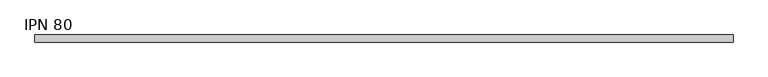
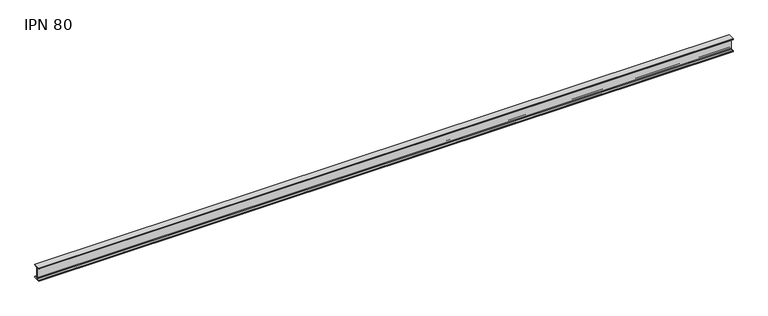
"""IFC4 building model written with IfcOpenShell, lengths in millimetres: beam geometry, IPN - Secciones en I con alas cónicas : IPN 80."""

from ifc_helpers import new_model, si_unit, point, frame, frame_2d, origin, place, context, project, spatial, polyline, circle_curve, trimmed, segment, composite_curve, outline, extrude, source, transform, mapped, element, save


def ipn_80_ad12ebcf(model_context):
    return source(origin(), model_context, "Body", "SweptSolid", [
        extrude(outline(composite_curve([segment(polyline([(-21.0, 40.0), (21.0, 40.0), (21.0, 37.5704306)]), True, "CONTINUOUS"), segment(trimmed(circle_curve(frame_2d((18.7, 37.5704306)), 2.3), [point((21.0, 37.5704306))], [point((19.01889, 35.2926446))], False, "CARTESIAN"), True, "CONTINUOUS"), segment(polyline([(19.01889, 35.2926446), (5.3092734, 33.3732983)]), True, "CONTINUOUS"), segment(trimmed(circle_curve(frame_2d((5.85, 29.5109655)), 3.9), [point((5.3092734, 33.3732983))], [point((1.95, 29.5109655))], True, "CARTESIAN"), True, "CONTINUOUS"), segment(polyline([(1.95, 29.5109655), (1.95, -29.5109655)]), True, "CONTINUOUS"), segment(trimmed(circle_curve(frame_2d((5.85, -29.5109655)), 3.9), [point((1.95, -29.5109655))], [point((5.3092734, -33.3732983))], True, "CARTESIAN"), True, "CONTINUOUS"), segment(polyline([(5.3092734, -33.3732983), (19.01889, -35.2926446)]), True, "CONTINUOUS"), segment(trimmed(circle_curve(frame_2d((18.7, -37.5704306)), 2.3), [point((19.01889, -35.2926446))], [point((21.0, -37.5704306))], False, "CARTESIAN"), True, "CONTINUOUS"), segment(polyline([(21.0, -37.5704306), (21.0, -40.0), (-21.0, -40.0), (-21.0, -37.5704306)]), True, "CONTINUOUS"), segment(trimmed(circle_curve(frame_2d((-18.7, -37.5704306)), 2.3), [point((-21.0, -37.5704306))], [point((-19.01889, -35.2926446))], False, "CARTESIAN"), True, "CONTINUOUS"), segment(polyline([(-19.01889, -35.2926446), (-5.3092734, -33.3732983)]), True, "CONTINUOUS"), segment(trimmed(circle_curve(frame_2d((-5.85, -29.5109655)), 3.9), [point((-5.3092734, -33.3732983))], [point((-1.95, -29.5109655))], True, "CARTESIAN"), True, "CONTINUOUS"), segment(polyline([(-1.95, -29.5109655), (-1.95, 29.5109655)]), True, "CONTINUOUS"), segment(trimmed(circle_curve(frame_2d((-5.85, 29.5109655)), 3.9), [point((-1.95, 29.5109655))], [point((-5.3092734, 33.3732983))], True, "CARTESIAN"), True, "CONTINUOUS"), segment(polyline([(-5.3092734, 33.3732983), (-19.01889, 35.2926446)]), True, "CONTINUOUS"), segment(trimmed(circle_curve(frame_2d((-18.7, 37.5704306)), 2.3), [point((-19.01889, 35.2926446))], [point((-21.0, 37.5704306))], False, "CARTESIAN"), True, "CONTINUOUS"), segment(polyline([(-21.0, 37.5704306), (-21.0, 40.0)]), True, "CONTINUOUS")], self_intersect=False)), frame((-2053.85, 0.0, 0.0), z_axis=(1.0, 0.0, 0.0), x_axis=(0.0, 1.0, 0.0)), (0.0, 0.0, 1.0), 4118.05),
    ])


if __name__ == "__main__":
    model = new_model("IFC4")
    model_context = context("Model", 3, world=origin())
    ifc_project = project(units=[si_unit("LENGTHUNIT", "METRE", prefix="MILLI")], contexts=[model_context])
    site = spatial("IfcSite", under=ifc_project)
    building = spatial("IfcBuilding", under=site)
    placement = place(None, origin())
    ipn_80_shape = ipn_80_ad12ebcf(model_context)
    element("IfcBeam", 1, ObjectType="IPN - Secciones en I con alas cónicas : IPN 80", at=placement, inside=building, context=model_context, shape_type="MappedRepresentation", body=[
        mapped(ipn_80_shape, transform((0.0, 0.0, 0.0), x_axis=(1.0, 0.0, 0.0), y_axis=(0.0, 1.0, 0.0), z_axis=(0.0, 0.0, 1.0))),
    ])
    save(model, "model.ifc")
